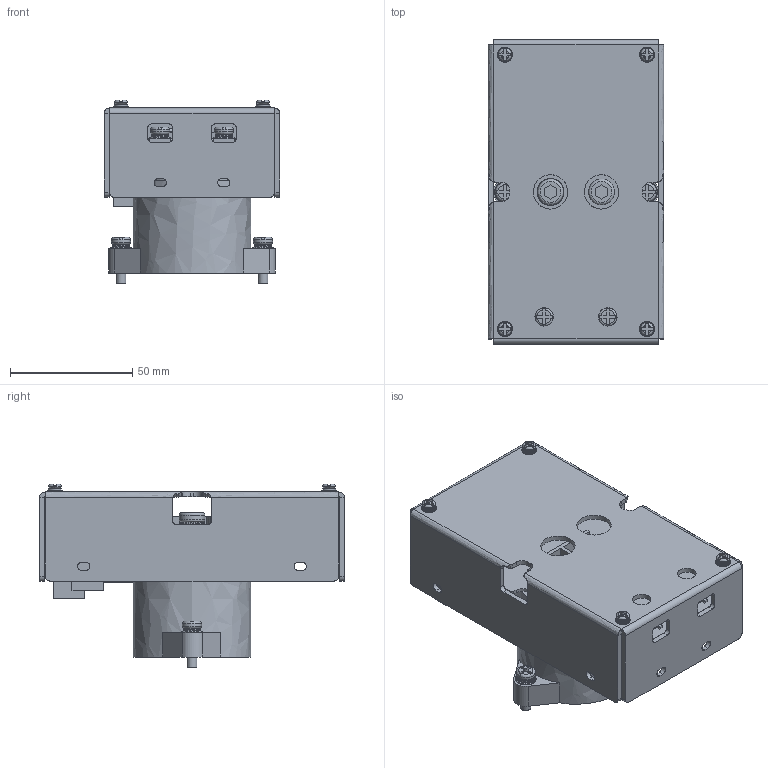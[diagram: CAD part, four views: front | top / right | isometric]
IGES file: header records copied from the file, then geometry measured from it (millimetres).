
Global section: file name: BLVD; native system: Autodesk Inventor 2021; preprocessor: unknown; author: eunsol jang; date: 20250220.115648; units: inch
Bounding box: 71.7 x 124.4 x 75.01 mm (x, y, z)
Volume: 171669.1 mm3; surface area: 86928.5 mm2
Topology: 7 solids, 7 shells, 933 faces, 2498 edges, 1683 vertices
Faces by surface type: bspline 933
